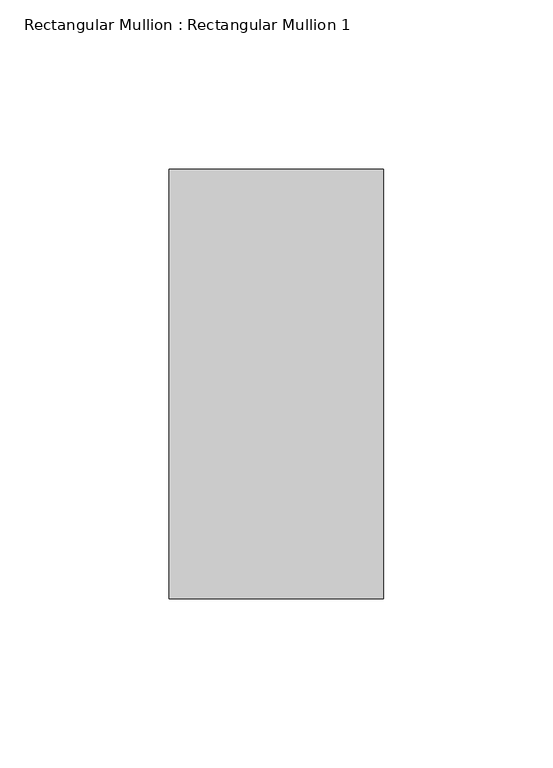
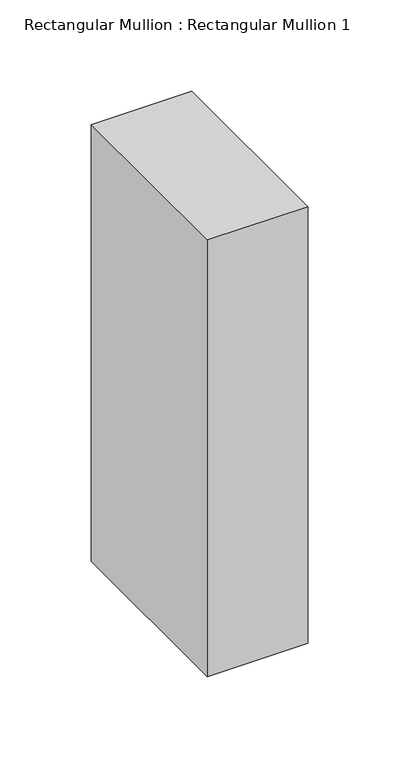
"""IFC4 building model written with IfcOpenShell, lengths in millimetres: member geometry, Rectangular Mullion : Rectangular Mullion 1."""

from ifc_helpers import new_model, si_unit, frame, origin, place, context, project, spatial, polyline, outline, extrude, source, transform, mapped, element, save


def rectangular_mullion_rectangular_mullion_1_29d43bb4(model_context):
    return source(origin(), model_context, "Body", "SweptSolid", [
        extrude(outline(polyline([(31.75, 63.5), (31.75, -63.5), (-31.75, -63.5), (-31.75, 63.5), (31.75, 63.5)])), frame((0.0, 0.0, -292.1), z_axis=(0.0, 0.0, 1.0), x_axis=(1.0, 0.0, 0.0)), (0.0, 0.0, 1.0), 292.1),
    ])


if __name__ == "__main__":
    model = new_model("IFC4")
    model_context = context("Model", 3, world=origin())
    ifc_project = project(units=[si_unit("LENGTHUNIT", "METRE", prefix="MILLI")], contexts=[model_context])
    site = spatial("IfcSite", under=ifc_project)
    building = spatial("IfcBuilding", under=site)
    placement = place(None, origin())
    rectangular_mullion_rectangular_mullion_1_shape = rectangular_mullion_rectangular_mullion_1_29d43bb4(model_context)
    element("IfcMember", 1, ObjectType="Rectangular Mullion : Rectangular Mullion 1", at=placement, inside=building, context=model_context, shape_type="MappedRepresentation", body=[
        mapped(rectangular_mullion_rectangular_mullion_1_shape, transform((0.0, 0.0, 0.0), x_axis=(1.0, 0.0, 0.0), y_axis=(0.0, 1.0, 0.0), z_axis=(0.0, 0.0, 1.0))),
    ])
    save(model, "model.ifc")
